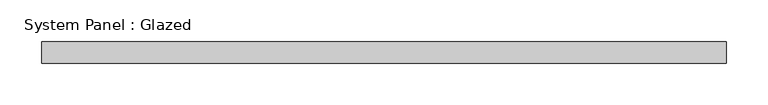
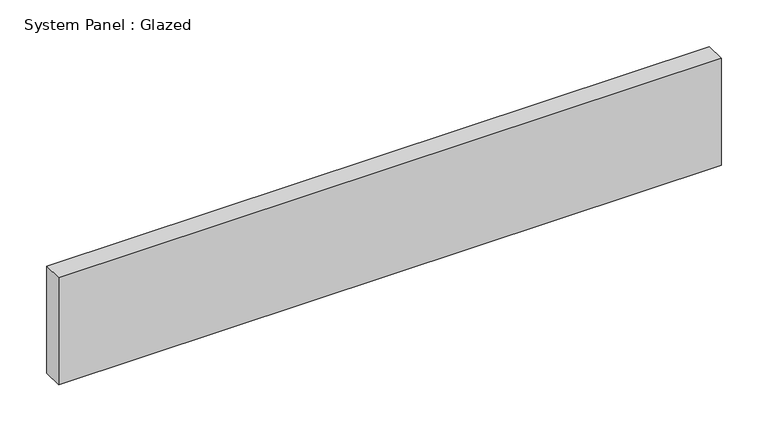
"""IFC4 building model written with IfcOpenShell, lengths in millimetres: plate geometry, System Panel : Glazed."""

from ifc_helpers import new_model, si_unit, origin, origin_with_axes, place, context, project, spatial, polyline, outline, extrude, source, transform, mapped, element, save


def system_panel_glazed_0c1d7574(model_context):
    return source(origin(), model_context, "Body", "SweptSolid", [
        extrude(outline(polyline([(409.575, 19.05), (-409.575, 19.05), (-409.575, 44.45), (409.575, 44.45), (409.575, 19.05)])), origin_with_axes(), (0.0, 0.0, 1.0), 139.7),
    ])


if __name__ == "__main__":
    model = new_model("IFC4")
    model_context = context("Model", 3, world=origin())
    ifc_project = project(units=[si_unit("LENGTHUNIT", "METRE", prefix="MILLI")], contexts=[model_context])
    site = spatial("IfcSite", under=ifc_project)
    building = spatial("IfcBuilding", under=site)
    placement = place(None, origin())
    system_panel_glazed_shape = system_panel_glazed_0c1d7574(model_context)
    element("IfcPlate", 1, ObjectType="System Panel : Glazed", at=placement, inside=building, context=model_context, shape_type="MappedRepresentation", body=[
        mapped(system_panel_glazed_shape, transform((0.0, 0.0, 0.0), x_axis=(1.0, 0.0, 0.0), y_axis=(0.0, 1.0, 0.0), z_axis=(0.0, 0.0, 1.0))),
    ])
    save(model, "model.ifc")
